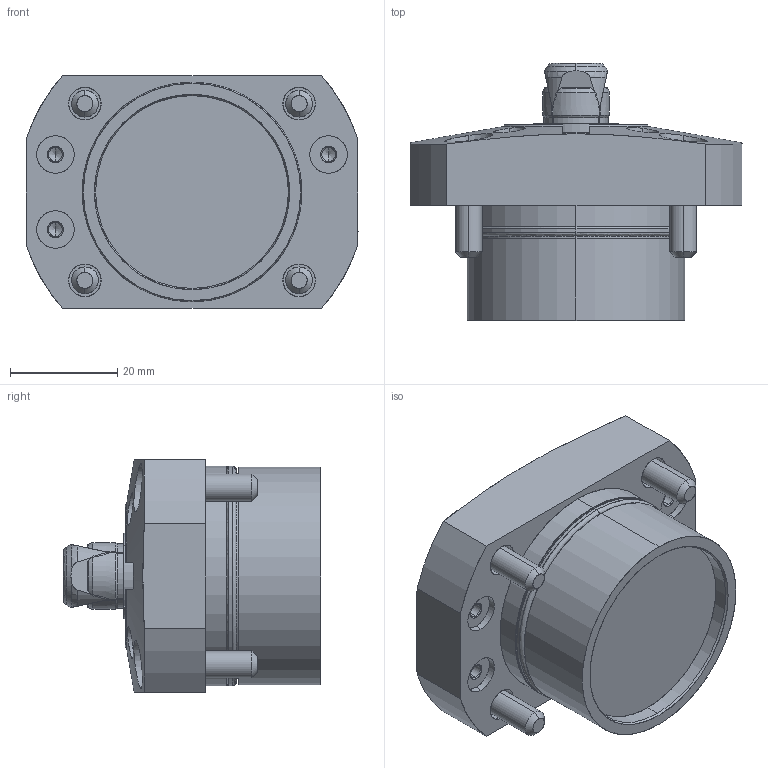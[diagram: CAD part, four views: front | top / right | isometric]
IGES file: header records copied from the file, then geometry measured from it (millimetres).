
Start section: SolidWorks IGES file using analytic representation for surfaces
Global section: file name: L:\電子カタログ-3Ｄ\SFH\ｱｾﾝﾌﾞﾘ\SFH2130.IGS; native system: SolidWorks 2010; preprocessor: SolidWorks 2010; author: D214; date: 101104.081408; units: millimetre
Bounding box: 62 x 48 x 43.5 mm (x, y, z)
Surface area: 21701.2 mm2 (no closed solid volume)
Topology: 0 solids, 0 shells, 486 faces, 6367 edges, 6343 vertices
Faces by surface type: revolution 276, bspline 210
